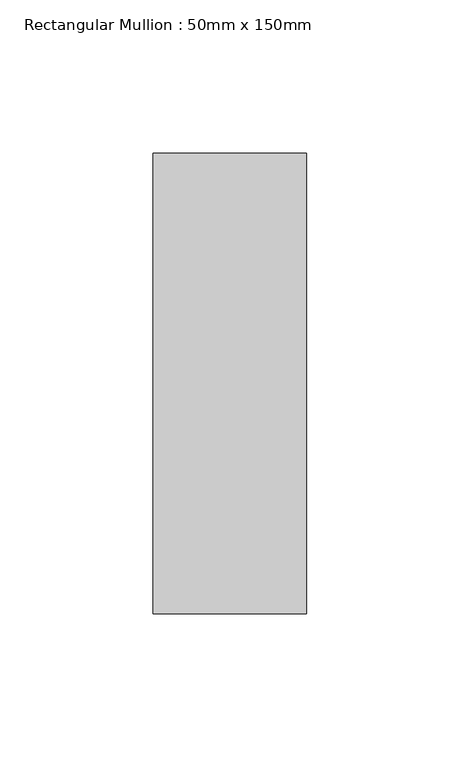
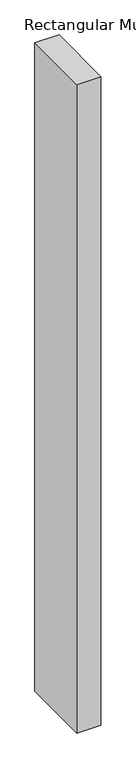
"""IFC4 building model written with IfcOpenShell, lengths in millimetres: member geometry, Rectangular Mullion : 50mm x 150mm."""

from ifc_helpers import new_model, si_unit, frame, origin, place, context, project, spatial, polyline, outline, extrude, source, transform, mapped, element, save


def rectangular_mullion_50mm_x_150mm_478b79f1(model_context):
    return source(origin(), model_context, "Body", "SweptSolid", [
        extrude(outline(polyline([(25.0, 75.0), (25.0, -75.0), (-25.0, -75.0), (-25.0, 75.0), (25.0, 75.0)])), frame((0.0, 0.0, -1417.4732205), z_axis=(0.0, 0.0, 1.0), x_axis=(1.0, 0.0, 0.0)), (0.0, 0.0, 1.0), 1417.4732205),
    ])


if __name__ == "__main__":
    model = new_model("IFC4")
    model_context = context("Model", 3, world=origin())
    ifc_project = project(units=[si_unit("LENGTHUNIT", "METRE", prefix="MILLI")], contexts=[model_context])
    site = spatial("IfcSite", under=ifc_project)
    building = spatial("IfcBuilding", under=site)
    placement = place(None, origin())
    rectangular_mullion_50mm_x_150mm_shape = rectangular_mullion_50mm_x_150mm_478b79f1(model_context)
    element("IfcMember", 1, ObjectType="Rectangular Mullion : 50mm x 150mm", at=placement, inside=building, context=model_context, shape_type="MappedRepresentation", body=[
        mapped(rectangular_mullion_50mm_x_150mm_shape, transform((0.0, 0.0, 0.0), x_axis=(1.0, 0.0, 0.0), y_axis=(0.0, 1.0, 0.0), z_axis=(0.0, 0.0, 1.0))),
    ])
    save(model, "model.ifc")
